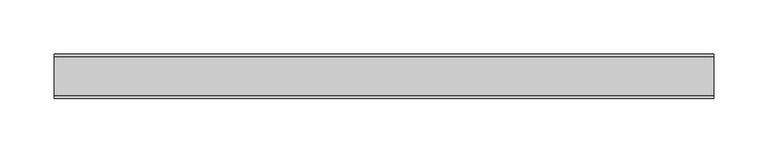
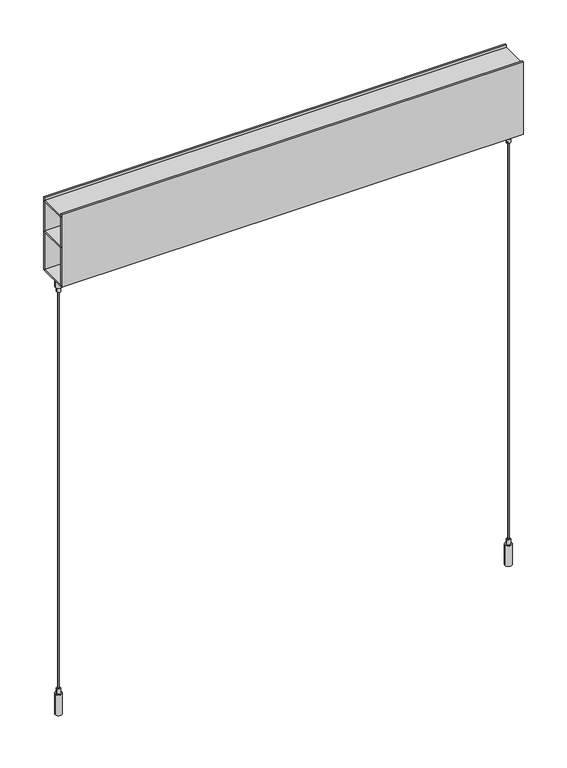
"""IFC4 building model written with IfcOpenShell, lengths in millimetres: light fixture geometry, Lighting-Pendant-Betacalco-Block-Straight : BLKP-DT1-PW01-TR01-SL04-EP01-LP020-CR80-CTA40."""

from ifc_helpers import new_model, si_unit, frame, origin, place, context, project, spatial, polyline, circle_curve, outline, extrude, source, transform, mapped, element, save
from ifc_brep_helpers import plane_surface, cylinder_surface, advanced_brep


def light_fixture_22d31b18(model_context):
    return source(origin(), model_context, "Body", "SolidModel", [
        advanced_brep(
        [(301.6250015, 0.0, 0.0), (292.7349985, 0.0, 0.0), (292.7349985, 0.0, 28.4480024), (301.6250015, 0.0, 28.4480024), (294.6400002, 0.0, 28.4480024), (299.7199998, 0.0, 28.4480024), (294.6400002, 0.0, 35.4330037), (299.7199998, 0.0, 35.4330037), (297.18, 0.0, 35.4330037), (297.18, 0.0, 0.0)],
        [
            (0, 1, circle_curve(frame((297.18, 0.0, 0.0), z_axis=(0.0, 0.0, 1.0), x_axis=(-1.0, 0.0, 0.0)), 4.4450015)),
            (1, 2),
            (2, 3, circle_curve(frame((297.18, 0.0, 28.4480024), z_axis=(0.0, 0.0, -1.0), x_axis=(-1.0, 0.0, 0.0)), 4.4450015)),
            (3, 0),
            (1, 0, circle_curve(frame((297.18, 0.0, 0.0), z_axis=(0.0, 0.0, 1.0), x_axis=(-1.0, 0.0, 0.0)), 4.4450015)),
            (3, 2, circle_curve(frame((297.18, 0.0, 28.4480024), z_axis=(0.0, 0.0, -1.0), x_axis=(-1.0, 0.0, 0.0)), 4.4450015)),
            (2, 4),
            (4, 5, circle_curve(frame((297.18, 0.0, 28.4480024), z_axis=(0.0, 0.0, -1.0), x_axis=(-1.0, 0.0, 0.0)), 2.5399998)),
            (5, 3),
            (5, 4, circle_curve(frame((297.18, 0.0, 28.4480024), z_axis=(0.0, 0.0, -1.0), x_axis=(-1.0, 0.0, 0.0)), 2.5399998)),
            (4, 6),
            (6, 7, circle_curve(frame((297.18, 0.0, 35.4330037), z_axis=(0.0, 0.0, -1.0), x_axis=(-1.0, 0.0, 0.0)), 2.5399998)),
            (7, 5),
            (7, 6, circle_curve(frame((297.18, 0.0, 35.4330037), z_axis=(0.0, 0.0, -1.0), x_axis=(-1.0, 0.0, 0.0)), 2.5399998)),
            (6, 8),
            (8, 7),
            (9, 1),
            (0, 9),
        ],
        [
            cylinder_surface(frame((297.18, 0.0, 2366.7150031), z_axis=(0.0, 0.0, -1.0), x_axis=(-1.0, 0.0, 0.0)), 4.4450015),
            plane_surface(frame((297.18, 0.0, 28.4480024), z_axis=(0.0, 0.0, 1.0), x_axis=(-1.0, 0.0, 0.0))),
            cylinder_surface(frame((297.18, 0.0, 2366.7150031), z_axis=(0.0, 0.0, -1.0), x_axis=(-1.0, 0.0, 0.0)), 2.5399998),
            plane_surface(frame((297.18, 0.0, 35.4330037), z_axis=(0.0, 0.0, 1.0), x_axis=(-1.0, 0.0, 0.0))),
            plane_surface(frame((297.18, 0.0, 0.0), z_axis=(0.0, 0.0, -1.0), x_axis=(-1.0, 0.0, 0.0))),
        ],
        [
            (0, [[1, 2, 3, 4]]),
            (0, [[5, -4, 6, -2]]),
            (1, [[-3, 7, 8, 9]]),
            (1, [[-6, -9, 10, -7]]),
            (2, [[-8, 11, 12, 13]]),
            (2, [[-10, -13, 14, -11]]),
            (3, [[-12, 15, 16]]),
            (3, [[-14, -16, -15]]),
            (4, [[17, -1, 18]]),
            (4, [[-18, -5, -17]]),
        ],
    ),
        advanced_brep(
        [(297.9737476, 0.0, 35.4330037), (296.3862524, 0.0, 35.4330037), (296.3862524, 0.0, 589.2774601), (297.9737476, 0.0, 589.2774601), (297.18, 0.0, 35.4330037), (297.18, 0.0, 589.2774601)],
        [
            (0, 1, circle_curve(frame((297.18, 0.0, 35.4330037), z_axis=(0.0, 0.0, 1.0), x_axis=(-1.0, 0.0, 0.0)), 0.7937476)),
            (1, 2),
            (2, 3, circle_curve(frame((297.18, 0.0, 589.2774601), z_axis=(0.0, 0.0, -1.0), x_axis=(-1.0, 0.0, 0.0)), 0.7937476)),
            (3, 0),
            (1, 0, circle_curve(frame((297.18, 0.0, 35.4330037), z_axis=(0.0, 0.0, 1.0), x_axis=(-1.0, 0.0, 0.0)), 0.7937476)),
            (3, 2, circle_curve(frame((297.18, 0.0, 589.2774601), z_axis=(0.0, 0.0, -1.0), x_axis=(-1.0, 0.0, 0.0)), 0.7937476)),
            (4, 1),
            (0, 4),
            (2, 5),
            (5, 3),
        ],
        [
            cylinder_surface(frame((297.18, 0.0, 2366.7150031), z_axis=(0.0, 0.0, -1.0), x_axis=(-1.0, 0.0, 0.0)), 0.7937476),
            plane_surface(frame((297.18, 0.0, 35.4330037), z_axis=(0.0, 0.0, -1.0), x_axis=(-1.0, 0.0, 0.0))),
            plane_surface(frame((297.18, 0.0, 589.2774601), z_axis=(0.0, 0.0, 1.0), x_axis=(-1.0, 0.0, 0.0))),
        ],
        [
            (0, [[1, 2, 3, 4]]),
            (0, [[5, -4, 6, -2]]),
            (1, [[7, -1, 8]]),
            (1, [[-8, -5, -7]]),
            (2, [[-3, 9, 10]]),
            (2, [[-6, -10, -9]]),
        ],
    ),
        advanced_brep(
        [(301.6250015, 0.0, 596.2624614), (292.7349985, 0.0, 596.2624614), (292.7349985, 0.0, 609.6), (301.6250015, 0.0, 609.6), (299.7199998, 0.0, 596.2624614), (294.6400002, 0.0, 596.2624614), (299.7199998, 0.0, 589.2774601), (294.6400002, 0.0, 589.2774601), (297.18, 0.0, 589.2774601), (297.18, 0.0, 609.6)],
        [
            (0, 1, circle_curve(frame((297.18, 0.0, 596.2624614), z_axis=(0.0, 0.0, 1.0), x_axis=(-1.0, 0.0, 0.0)), 4.4450015)),
            (1, 2),
            (2, 3, circle_curve(frame((297.18, 0.0, 609.6), z_axis=(0.0, 0.0, -1.0), x_axis=(-1.0, 0.0, 0.0)), 4.4450015)),
            (3, 0),
            (1, 0, circle_curve(frame((297.18, 0.0, 596.2624614), z_axis=(0.0, 0.0, 1.0), x_axis=(-1.0, 0.0, 0.0)), 4.4450015)),
            (3, 2, circle_curve(frame((297.18, 0.0, 609.6), z_axis=(0.0, 0.0, -1.0), x_axis=(-1.0, 0.0, 0.0)), 4.4450015)),
            (4, 5, circle_curve(frame((297.18, 0.0, 596.2624614), z_axis=(0.0, 0.0, 1.0), x_axis=(-1.0, 0.0, 0.0)), 2.5399998)),
            (5, 1),
            (0, 4),
            (5, 4, circle_curve(frame((297.18, 0.0, 596.2624614), z_axis=(0.0, 0.0, 1.0), x_axis=(-1.0, 0.0, 0.0)), 2.5399998)),
            (6, 7, circle_curve(frame((297.18, 0.0, 589.2774601), z_axis=(0.0, 0.0, 1.0), x_axis=(-1.0, 0.0, 0.0)), 2.5399998)),
            (7, 5),
            (4, 6),
            (7, 6, circle_curve(frame((297.18, 0.0, 589.2774601), z_axis=(0.0, 0.0, 1.0), x_axis=(-1.0, 0.0, 0.0)), 2.5399998)),
            (8, 7),
            (6, 8),
            (2, 9),
            (9, 3),
        ],
        [
            cylinder_surface(frame((297.18, 0.0, 2366.7150031), z_axis=(0.0, 0.0, -1.0), x_axis=(-1.0, 0.0, 0.0)), 4.4450015),
            plane_surface(frame((297.18, 0.0, 596.2624614), z_axis=(0.0, 0.0, -1.0), x_axis=(-1.0, 0.0, 0.0))),
            cylinder_surface(frame((297.18, 0.0, 2366.7150031), z_axis=(0.0, 0.0, -1.0), x_axis=(-1.0, 0.0, 0.0)), 2.5399998),
            plane_surface(frame((297.18, 0.0, 589.2774601), z_axis=(0.0, 0.0, -1.0), x_axis=(-1.0, 0.0, 0.0))),
            plane_surface(frame((297.18, 0.0, 609.6), z_axis=(0.0, 0.0, 1.0), x_axis=(-1.0, 0.0, 0.0))),
        ],
        [
            (0, [[1, 2, 3, 4]]),
            (0, [[5, -4, 6, -2]]),
            (1, [[7, 8, -1, 9]]),
            (1, [[10, -9, -5, -8]]),
            (2, [[11, 12, -7, 13]]),
            (2, [[14, -13, -10, -12]]),
            (3, [[15, -11, 16]]),
            (3, [[-16, -14, -15]]),
            (4, [[-3, 17, 18]]),
            (4, [[-6, -18, -17]]),
        ],
    ),
        advanced_brep(
        [(-292.7349985, 0.0, 0.0), (-301.6250015, 0.0, 0.0), (-301.6250015, 0.0, 28.4480024), (-292.7349985, 0.0, 28.4480024), (-299.7199998, 0.0, 28.4480024), (-294.6400002, 0.0, 28.4480024), (-299.7199998, 0.0, 35.4330037), (-294.6400002, 0.0, 35.4330037), (-297.18, 0.0, 35.4330037), (-297.18, 0.0, 0.0)],
        [
            (0, 1, circle_curve(frame((-297.18, 0.0, 0.0), z_axis=(0.0, 0.0, 1.0), x_axis=(-1.0, 0.0, 0.0)), 4.4450015)),
            (1, 2),
            (2, 3, circle_curve(frame((-297.18, 0.0, 28.4480024), z_axis=(0.0, 0.0, -1.0), x_axis=(-1.0, 0.0, 0.0)), 4.4450015)),
            (3, 0),
            (1, 0, circle_curve(frame((-297.18, 0.0, 0.0), z_axis=(0.0, 0.0, 1.0), x_axis=(-1.0, 0.0, 0.0)), 4.4450015)),
            (3, 2, circle_curve(frame((-297.18, 0.0, 28.4480024), z_axis=(0.0, 0.0, -1.0), x_axis=(-1.0, 0.0, 0.0)), 4.4450015)),
            (2, 4),
            (4, 5, circle_curve(frame((-297.18, 0.0, 28.4480024), z_axis=(0.0, 0.0, -1.0), x_axis=(-1.0, 0.0, 0.0)), 2.5399998)),
            (5, 3),
            (5, 4, circle_curve(frame((-297.18, 0.0, 28.4480024), z_axis=(0.0, 0.0, -1.0), x_axis=(-1.0, 0.0, 0.0)), 2.5399998)),
            (4, 6),
            (6, 7, circle_curve(frame((-297.18, 0.0, 35.4330037), z_axis=(0.0, 0.0, -1.0), x_axis=(-1.0, 0.0, 0.0)), 2.5399998)),
            (7, 5),
            (7, 6, circle_curve(frame((-297.18, 0.0, 35.4330037), z_axis=(0.0, 0.0, -1.0), x_axis=(-1.0, 0.0, 0.0)), 2.5399998)),
            (6, 8),
            (8, 7),
            (9, 1),
            (0, 9),
        ],
        [
            cylinder_surface(frame((-297.18, 0.0, 2366.7150031), z_axis=(0.0, 0.0, -1.0), x_axis=(-1.0, 0.0, 0.0)), 4.4450015),
            plane_surface(frame((-297.18, 0.0, 28.4480024), z_axis=(0.0, 0.0, 1.0), x_axis=(-1.0, 0.0, 0.0))),
            cylinder_surface(frame((-297.18, 0.0, 2366.7150031), z_axis=(0.0, 0.0, -1.0), x_axis=(-1.0, 0.0, 0.0)), 2.5399998),
            plane_surface(frame((-297.18, 0.0, 35.4330037), z_axis=(0.0, 0.0, 1.0), x_axis=(-1.0, 0.0, 0.0))),
            plane_surface(frame((-297.18, 0.0, 0.0), z_axis=(0.0, 0.0, -1.0), x_axis=(-1.0, 0.0, 0.0))),
        ],
        [
            (0, [[1, 2, 3, 4]]),
            (0, [[5, -4, 6, -2]]),
            (1, [[-3, 7, 8, 9]]),
            (1, [[-6, -9, 10, -7]]),
            (2, [[-8, 11, 12, 13]]),
            (2, [[-10, -13, 14, -11]]),
            (3, [[-12, 15, 16]]),
            (3, [[-14, -16, -15]]),
            (4, [[17, -1, 18]]),
            (4, [[-18, -5, -17]]),
        ],
    ),
        advanced_brep(
        [(-296.3862524, 0.0, 35.4330037), (-297.9737476, 0.0, 35.4330037), (-297.9737476, 0.0, 589.2774601), (-296.3862524, 0.0, 589.2774601), (-297.18, 0.0, 35.4330037), (-297.18, 0.0, 589.2774601)],
        [
            (0, 1, circle_curve(frame((-297.18, 0.0, 35.4330037), z_axis=(0.0, 0.0, 1.0), x_axis=(-1.0, 0.0, 0.0)), 0.7937476)),
            (1, 2),
            (2, 3, circle_curve(frame((-297.18, 0.0, 589.2774601), z_axis=(0.0, 0.0, -1.0), x_axis=(-1.0, 0.0, 0.0)), 0.7937476)),
            (3, 0),
            (1, 0, circle_curve(frame((-297.18, 0.0, 35.4330037), z_axis=(0.0, 0.0, 1.0), x_axis=(-1.0, 0.0, 0.0)), 0.7937476)),
            (3, 2, circle_curve(frame((-297.18, 0.0, 589.2774601), z_axis=(0.0, 0.0, -1.0), x_axis=(-1.0, 0.0, 0.0)), 0.7937476)),
            (4, 1),
            (0, 4),
            (2, 5),
            (5, 3),
        ],
        [
            cylinder_surface(frame((-297.18, 0.0, 2366.7150031), z_axis=(0.0, 0.0, -1.0), x_axis=(-1.0, 0.0, 0.0)), 0.7937476),
            plane_surface(frame((-297.18, 0.0, 35.4330037), z_axis=(0.0, 0.0, -1.0), x_axis=(-1.0, 0.0, 0.0))),
            plane_surface(frame((-297.18, 0.0, 589.2774601), z_axis=(0.0, 0.0, 1.0), x_axis=(-1.0, 0.0, 0.0))),
        ],
        [
            (0, [[1, 2, 3, 4]]),
            (0, [[5, -4, 6, -2]]),
            (1, [[7, -1, 8]]),
            (1, [[-8, -5, -7]]),
            (2, [[-3, 9, 10]]),
            (2, [[-6, -10, -9]]),
        ],
    ),
        advanced_brep(
        [(-292.7349985, 0.0, 596.2624614), (-301.6250015, 0.0, 596.2624614), (-301.6250015, 0.0, 609.6), (-292.7349985, 0.0, 609.6), (-294.6400002, 0.0, 596.2624614), (-299.7199998, 0.0, 596.2624614), (-294.6400002, 0.0, 589.2774601), (-299.7199998, 0.0, 589.2774601), (-297.18, 0.0, 589.2774601), (-297.18, 0.0, 609.6)],
        [
            (0, 1, circle_curve(frame((-297.18, 0.0, 596.2624614), z_axis=(0.0, 0.0, 1.0), x_axis=(-1.0, 0.0, 0.0)), 4.4450015)),
            (1, 2),
            (2, 3, circle_curve(frame((-297.18, 0.0, 609.6), z_axis=(0.0, 0.0, -1.0), x_axis=(-1.0, 0.0, 0.0)), 4.4450015)),
            (3, 0),
            (1, 0, circle_curve(frame((-297.18, 0.0, 596.2624614), z_axis=(0.0, 0.0, 1.0), x_axis=(-1.0, 0.0, 0.0)), 4.4450015)),
            (3, 2, circle_curve(frame((-297.18, 0.0, 609.6), z_axis=(0.0, 0.0, -1.0), x_axis=(-1.0, 0.0, 0.0)), 4.4450015)),
            (4, 5, circle_curve(frame((-297.18, 0.0, 596.2624614), z_axis=(0.0, 0.0, 1.0), x_axis=(-1.0, 0.0, 0.0)), 2.5399998)),
            (5, 1),
            (0, 4),
            (5, 4, circle_curve(frame((-297.18, 0.0, 596.2624614), z_axis=(0.0, 0.0, 1.0), x_axis=(-1.0, 0.0, 0.0)), 2.5399998)),
            (6, 7, circle_curve(frame((-297.18, 0.0, 589.2774601), z_axis=(0.0, 0.0, 1.0), x_axis=(-1.0, 0.0, 0.0)), 2.5399998)),
            (7, 5),
            (4, 6),
            (7, 6, circle_curve(frame((-297.18, 0.0, 589.2774601), z_axis=(0.0, 0.0, 1.0), x_axis=(-1.0, 0.0, 0.0)), 2.5399998)),
            (8, 7),
            (6, 8),
            (2, 9),
            (9, 3),
        ],
        [
            cylinder_surface(frame((-297.18, 0.0, 2366.7150031), z_axis=(0.0, 0.0, -1.0), x_axis=(-1.0, 0.0, 0.0)), 4.4450015),
            plane_surface(frame((-297.18, 0.0, 596.2624614), z_axis=(0.0, 0.0, -1.0), x_axis=(-1.0, 0.0, 0.0))),
            cylinder_surface(frame((-297.18, 0.0, 2366.7150031), z_axis=(0.0, 0.0, -1.0), x_axis=(-1.0, 0.0, 0.0)), 2.5399998),
            plane_surface(frame((-297.18, 0.0, 589.2774601), z_axis=(0.0, 0.0, -1.0), x_axis=(-1.0, 0.0, 0.0))),
            plane_surface(frame((-297.18, 0.0, 609.6), z_axis=(0.0, 0.0, 1.0), x_axis=(-1.0, 0.0, 0.0))),
        ],
        [
            (0, [[1, 2, 3, 4]]),
            (0, [[5, -4, 6, -2]]),
            (1, [[7, 8, -1, 9]]),
            (1, [[10, -9, -5, -8]]),
            (2, [[11, 12, -7, 13]]),
            (2, [[14, -13, -10, -12]]),
            (3, [[15, -11, 16]]),
            (3, [[-16, -14, -15]]),
            (4, [[-3, 17, 18]]),
            (4, [[-6, -18, -17]]),
        ],
    ),
        extrude(outline(polyline([(304.8, 18.0975), (304.8, -18.0975), (-304.8, -18.0975), (-304.8, 18.0975), (304.8, 18.0975)])), frame((0.0, 0.0, 705.9095588), z_axis=(0.0, 0.0, 1.0), x_axis=(1.0, 0.0, 0.0)), (0.0, 0.0, 1.0), 1.5875),
        extrude(outline(polyline([(304.8, 18.0975), (304.8, -18.0975), (-304.8, -18.0975), (-304.8, 18.0975), (304.8, 18.0975)])), frame((0.0, 0.0, 663.287913), z_axis=(0.0, 0.0, 1.0), x_axis=(1.0, 0.0, 0.0)), (0.0, 0.0, 1.0), 1.5875),
        extrude(outline(polyline([(304.8, 18.0975), (304.8, -18.0975), (-304.8, -18.0975), (-304.8, 18.0975), (304.8, 18.0975)])), frame((0.0, 0.0, 609.6), z_axis=(0.0, 0.0, 1.0), x_axis=(1.0, 0.0, 0.0)), (0.0, 0.0, 1.0), 1.5875),
        extrude(outline(polyline([(304.8, 20.6375), (304.8, 18.0975), (-304.8, 18.0975), (-304.8, 20.6375), (304.8, 20.6375)])), frame((0.0, 0.0, 609.6), z_axis=(0.0, 0.0, 1.0), x_axis=(1.0, 0.0, 0.0)), (0.0, 0.0, 1.0), 101.6),
        extrude(outline(polyline([(304.8, -18.0975), (304.8, -20.6375), (-304.8, -20.6375), (-304.8, -18.0975), (304.8, -18.0975)])), frame((0.0, 0.0, 609.6), z_axis=(0.0, 0.0, 1.0), x_axis=(1.0, 0.0, 0.0)), (0.0, 0.0, 1.0), 101.6),
    ])


if __name__ == "__main__":
    model = new_model("IFC4")
    model_context = context("Model", 3, world=origin())
    ifc_project = project(units=[si_unit("LENGTHUNIT", "METRE", prefix="MILLI")], contexts=[model_context])
    site = spatial("IfcSite", under=ifc_project)
    building = spatial("IfcBuilding", under=site)
    placement = place(None, origin())
    light_fixture_shape = light_fixture_22d31b18(model_context)
    element("IfcLightFixture", 1, ObjectType="Lighting-Pendant-Betacalco-Block-Straight : BLKP-DT1-PW01-TR01-SL04-EP01-LP020-CR80-CTA40", at=placement, inside=building, context=model_context, shape_type="MappedRepresentation", body=[
        mapped(light_fixture_shape, transform((0.0, 0.0, 0.0), x_axis=(1.0, 0.0, 0.0), y_axis=(0.0, 1.0, 0.0), z_axis=(0.0, 0.0, 1.0))),
    ])
    save(model, "model.ifc")
